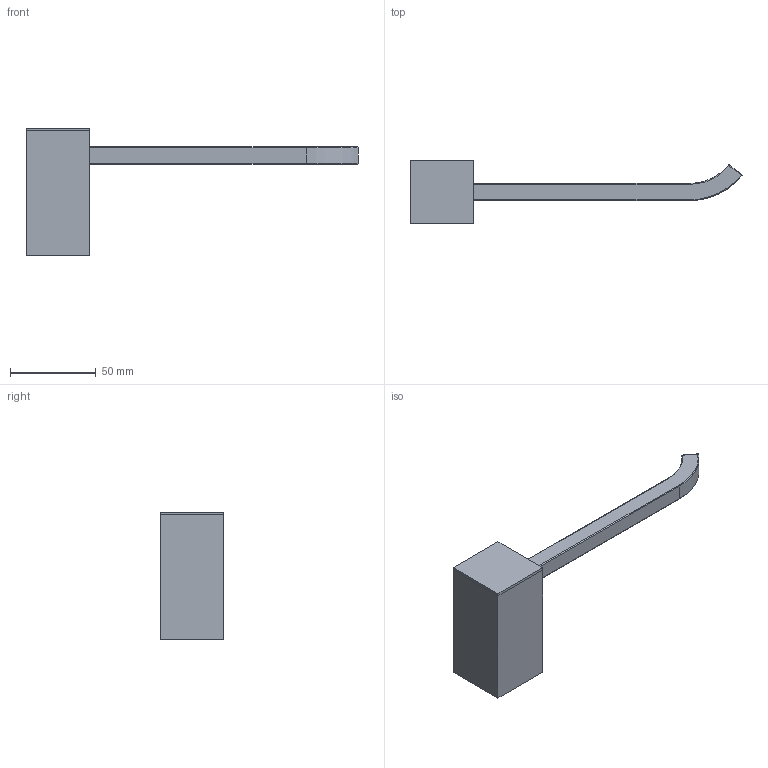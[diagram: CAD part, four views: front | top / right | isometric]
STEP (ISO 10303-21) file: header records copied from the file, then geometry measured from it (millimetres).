
FILE_DESCRIPTION (( 'STEP AP203' ), '1' );
FILE_NAME ('12126110.STEP', '2022-09-28T16:17:13', ( '' ), ( '' ), 'SwSTEP 2.0', 'SolidWorks 2018', '' );
FILE_SCHEMA (( 'CONFIG_CONTROL_DESIGN' ));
Length unit declared in the file: millimetre
Products named in the file (1): 12126110
Bounding box: 193.5 x 37 x 74.6 mm (x, y, z)
Surface area: 19909.9 mm2 (no closed solid volume)
Topology: 0 solids, 2 shells, 44 faces, 103 edges, 56 vertices
Faces by surface type: plane 23, cylinder 11, sphere 6, torus 4
Entity records: 1427 total; most frequent: CARTESIAN_POINT 572, ORIENTED_EDGE 186, DIRECTION 102, EDGE_CURVE 97, B_SPLINE_CURVE_WITH_KNOTS 85, VERTEX_POINT 56, EDGE_LOOP 45, AXIS2_PLACEMENT_3D 45
